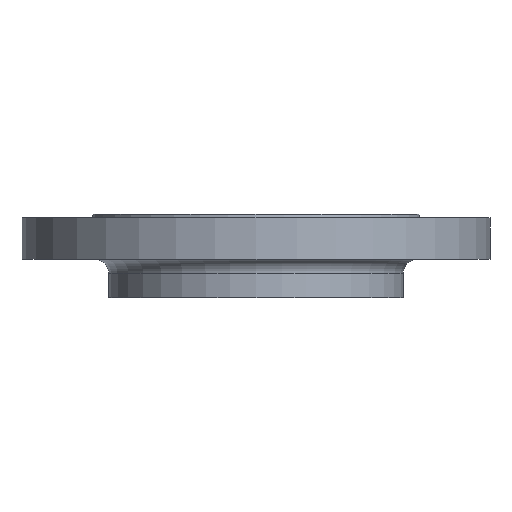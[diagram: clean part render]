
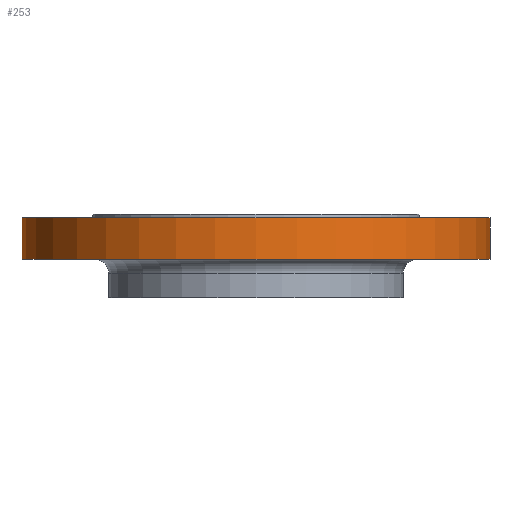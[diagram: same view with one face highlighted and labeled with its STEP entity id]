
A CAD part, front view. The second image highlights one B-rep face of the part: STEP entity #253.
In plain terms, the highlighted cylindrical face has radius 135 mm (diameter 270 mm), a partial arc.
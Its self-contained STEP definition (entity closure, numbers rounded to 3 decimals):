
#7 = CIRCLE ( 'NONE', #805, 135. ) ;
#80 = DIRECTION ( 'NONE',  ( 0., 0., 1. ) ) ;
#81 = CARTESIAN_POINT ( 'NONE',  ( 135., 0., -78. ) ) ;
#82 = LINE ( 'NONE', #81, #434 ) ;
#148 = EDGE_LOOP ( 'NONE', ( #973, #974, #975, #977 ) ) ;
#177 = VERTEX_POINT ( 'NONE', #778 ) ;
#179 = AXIS2_PLACEMENT_3D ( 'NONE', #772, #497, #501 ) ;
#231 = EDGE_CURVE ( 'NONE', #1167, #943, #7, .T. ) ;
#253 = ADVANCED_FACE ( 'NONE', ( #768 ), #517, .T. ) ;
#305 = DIRECTION ( 'NONE',  ( 1., 0., 0. ) ) ;
#306 = DIRECTION ( 'NONE',  ( 0., 0., 1. ) ) ;
#307 = CARTESIAN_POINT ( 'NONE',  ( 0., 0., -26. ) ) ;
#310 = DIRECTION ( 'NONE',  ( 0., 0., 1. ) ) ;
#311 = CARTESIAN_POINT ( 'NONE',  ( -135., 0., -78. ) ) ;
#312 = LINE ( 'NONE', #311, #649 ) ;
#434 = VECTOR ( 'NONE', #80, 1000. ) ;
#497 = DIRECTION ( 'NONE',  ( 0., 0., 1. ) ) ;
#501 = DIRECTION ( 'NONE',  ( 1., 0., 0. ) ) ;
#502 = DIRECTION ( 'NONE',  ( 0., 0., -1. ) ) ;
#517 = CYLINDRICAL_SURFACE ( 'NONE', #179, 135. ) ;
#533 = AXIS2_PLACEMENT_3D ( 'NONE', #307, #306, #305 ) ;
#550 = DIRECTION ( 'NONE',  ( -1., 0., 0. ) ) ;
#553 = CARTESIAN_POINT ( 'NONE',  ( 0., 0., -2. ) ) ;
#555 = CIRCLE ( 'NONE', #533, 135. ) ;
#599 = CARTESIAN_POINT ( 'NONE',  ( -135., 0., -2. ) ) ;
#644 = CARTESIAN_POINT ( 'NONE',  ( 135., 0., -2. ) ) ;
#646 = EDGE_CURVE ( 'NONE', #177, #943, #312, .T. ) ;
#649 = VECTOR ( 'NONE', #310, 1000. ) ;
#656 = EDGE_CURVE ( 'NONE', #177, #1019, #555, .T. ) ;
#746 = CARTESIAN_POINT ( 'NONE',  ( 135., 0., -26. ) ) ;
#768 = FACE_OUTER_BOUND ( 'NONE', #148, .T. ) ;
#772 = CARTESIAN_POINT ( 'NONE',  ( 0., 0., -78. ) ) ;
#778 = CARTESIAN_POINT ( 'NONE',  ( -135., 0., -26. ) ) ;
#805 = AXIS2_PLACEMENT_3D ( 'NONE', #553, #502, #550 ) ;
#853 = EDGE_CURVE ( 'NONE', #1019, #1167, #82, .T. ) ;
#943 = VERTEX_POINT ( 'NONE', #599 ) ;
#973 = ORIENTED_EDGE ( 'NONE', *, *, #646, .F. ) ;
#974 = ORIENTED_EDGE ( 'NONE', *, *, #656, .T. ) ;
#975 = ORIENTED_EDGE ( 'NONE', *, *, #853, .T. ) ;
#977 = ORIENTED_EDGE ( 'NONE', *, *, #231, .T. ) ;
#1019 = VERTEX_POINT ( 'NONE', #746 ) ;
#1167 = VERTEX_POINT ( 'NONE', #644 ) ;
